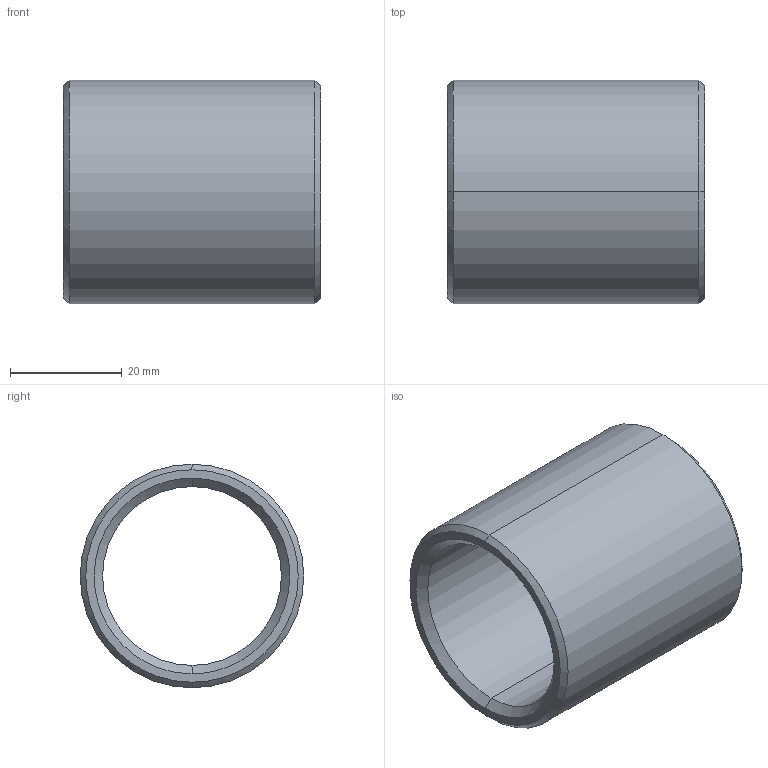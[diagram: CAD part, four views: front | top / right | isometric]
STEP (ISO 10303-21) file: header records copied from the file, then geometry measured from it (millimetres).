
FILE_DESCRIPTION(('CATIA V5 STEP Exchange'),'2;1');
FILE_NAME('C:\Users\Utente\Desktop\IO LAVORO\3D X SITO CF\X SITO\PLASTICA\352\352-32X46.stp','2021-04-14T15:02:20+00:00',('none'),('none'),'CATIA Version 5 Release 20 GA (IN-10)','CATIA V5 STEP AP203','none');
FILE_SCHEMA(('CONFIG_CONTROL_DESIGN'));
Length unit declared in the file: millimetre
Products named in the file (1): 352-32X46
Bounding box: 46 x 40 x 40 mm (x, y, z)
Volume: 20547.8 mm3; surface area: 11031.8 mm2
Topology: 1 solids, 1 shells, 14 faces, 44 edges, 32 vertices
Faces by surface type: cone 6, cylinder 4, plane 2, torus 2
Entity records: 634 total; most frequent: CARTESIAN_POINT 203, ORIENTED_EDGE 88, DIRECTION 64, EDGE_CURVE 44, AXIS2_PLACEMENT_3D 41, VERTEX_POINT 32, CIRCLE 26, EDGE_LOOP 16
